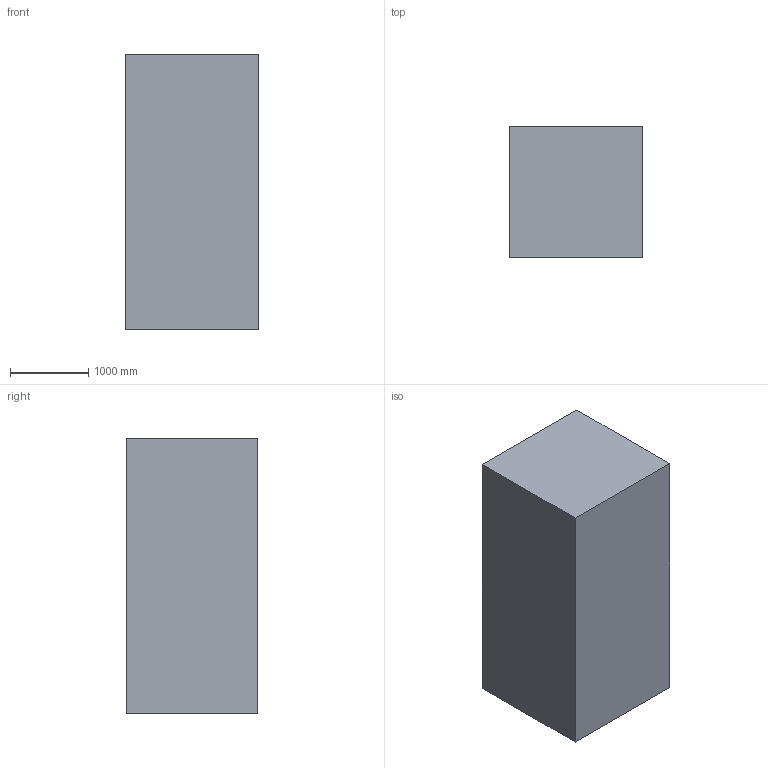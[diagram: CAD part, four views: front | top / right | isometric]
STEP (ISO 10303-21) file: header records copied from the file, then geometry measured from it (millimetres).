
FILE_DESCRIPTION(/* description */ (''),/* implementation_level */ '2;1');
FILE_NAME(/* name */ 'TestTopBotUnGrated.step',/* time_stamp */ '2024-09-30T16:01:27-07:00',/* author */ (''),/* organization */ (''),/* preprocessor_version */ 'ST-DEVELOPER v20',/* originating_system */ 'Autodesk Translation Framework v13.20.0.188',/* authorisation */ '');
FILE_SCHEMA (('AUTOMOTIVE_DESIGN { 1 0 10303 214 3 1 1 }'));
Length unit declared in the file: millimetre
Products named in the file (23): CFDTopBottomJig; ExtrusionsCFD; CFDBracket; BracketCFD; BracketCFD_1; TopHolderCFD; FanModel v3; FanModel v3_1; FanModel v3_2; FanModel v3_3; InnerFan; Component29; BracketCFD_2; BracketCFD_3; Component2; Component3; BottomHolderCFD; Top and Connector (1); FanModel v3_4; FanModel v3_5; FanModel v3_6; FanModel v3_7; InnerFan_1
Assembly tree (34 placements, depth 4):
  CFDTopBottomJig
    ExtrusionsCFD
      CFDBracket
    BracketCFD
      Component2
      Component3
    BracketCFD_1
      Component2
      Component3
    TopHolderCFD
      FanModel v3
        InnerFan
      FanModel v3_1
        InnerFan
      FanModel v3_2
        InnerFan
      FanModel v3_3
        InnerFan
      Component29
    BracketCFD_2
      Component2
      Component3
    BracketCFD_3
      Component2
      Component3
    BottomHolderCFD
      Top and Connector (1)
      FanModel v3_4
        InnerFan_1
      FanModel v3_5
        InnerFan_1
      FanModel v3_6
        InnerFan_1
      FanModel v3_7
        InnerFan_1
Bounding box: 1703 x 1675 x 3500 mm (x, y, z)
Volume: 9996301509.5 mm3; surface area: 31130335.1 mm2
Topology: 32 solids, 32 shells, 285 faces, 651 edges, 432 vertices
Faces by surface type: plane 231, cylinder 54
Full cylindrical faces by diameter (mm): 30 x16, 77.3 x8, 77.5 x16
Entity records: 7074 total; most frequent: DIRECTION 1167, CARTESIAN_POINT 1155, ORIENTED_EDGE 1050, EDGE_CURVE 525, LINE 447, VECTOR 447, AXIS2_PLACEMENT_3D 360, VERTEX_POINT 348
